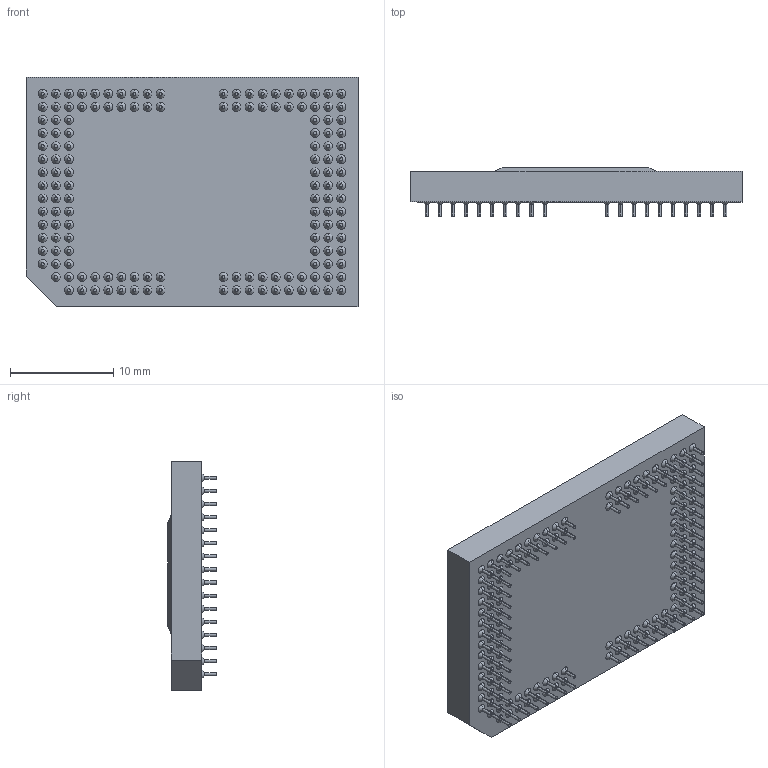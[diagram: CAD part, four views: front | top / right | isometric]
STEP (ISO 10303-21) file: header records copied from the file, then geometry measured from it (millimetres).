
FILE_DESCRIPTION (( 'STEP AP214' ), '1' );
FILE_NAME ('s453-47-SST-hWLP-DMD.STEP', '2023-08-15T17:00:22', ( '' ), ( '' ), 'SwSTEP 2.0', 'SolidWorks 2021', '' );
FILE_SCHEMA (( 'AUTOMOTIVE_DESIGN' ));
Length unit declared in the file: millimetre
Products named in the file (3): s453-47-SST-hWLP-Ceramic; s453-47-SST-hWLP-Window; s453-47-SST-hWLP-DMD
Assembly tree (2 placements, depth 2):
  s453-47-SST-hWLP-DMD
    s453-47-SST-hWLP-Ceramic
    s453-47-SST-hWLP-Window
Bounding box: 32.2 x 4.72 x 22.3 mm (x, y, z)
Volume: 2107.9 mm3; surface area: 2456.9 mm2
Topology: 2 solids, 2 shells, 813 faces, 1643 edges, 992 vertices
Faces by surface type: cylinder 308, cone 298, plane 207
Entity records: 29800 total; most frequent: DIRECTION 4193, CARTESIAN_POINT 3453, ORIENTED_EDGE 3286, AXIS2_PLACEMENT_3D 1732, EDGE_CURVE 1643, VERTEX_POINT 992, EDGE_LOOP 971, CIRCLE 914
